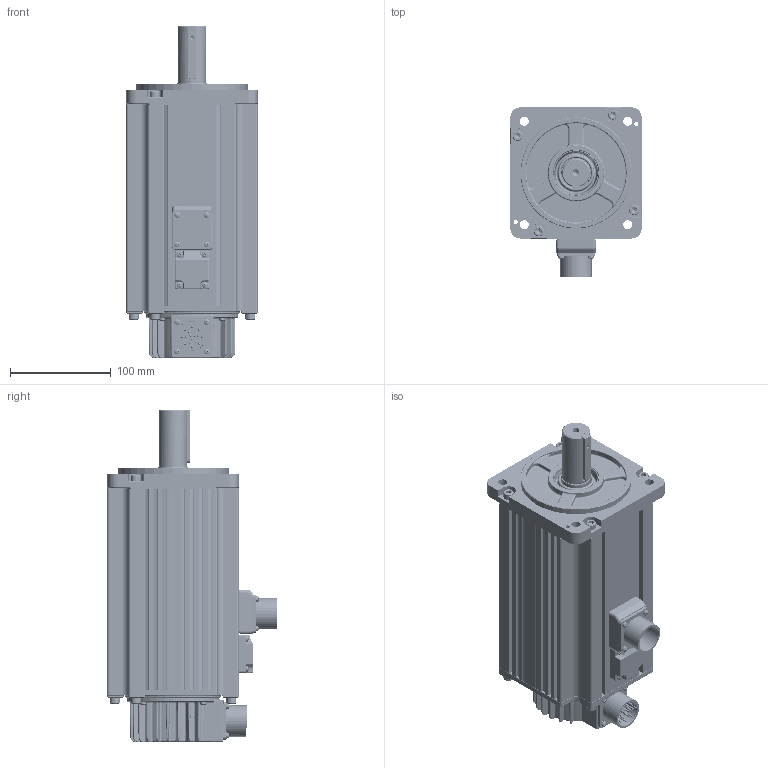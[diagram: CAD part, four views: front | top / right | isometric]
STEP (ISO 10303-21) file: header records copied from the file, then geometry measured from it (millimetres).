
FILE_DESCRIPTION((''),'2;1');
FILE_NAME('30C000_ASM','2019-11-15T09:42:48',('z17474'),(''),'CREO PARAMETRIC BY PTC INC, 2017260','CREO PARAMETRIC BY PTC INC, 2017260','');
FILE_SCHEMA(('CONFIG_CONTROL_DESIGN'));
Products named in the file (35): _____-1_AF0; ___AF0_ASM; 15050041-LJ; 31100148-LJ; 31100134-____; _____AF0_ASM; __AF0; _____1_AF0_ASM; 31090121_B01_ISMH3-85B15CD-U131_AF0; 31090131-LJ_AF0; 31100089-LJ; 31190209___-A_D72-GB89_3-86_AF0; ____1; __10_AF0; __1_AF0; 31150038-LJ-1_AF0_ASM; 31160032-ZP-1_AF0_ASM; 31090149-ZP_AF0_ASM; 15050037-LJ; JIAN; 0620_AF0; 0620_AF1; 0620_AF2; 0620_AF3; 0620_AF4; 0620_AF5; 0620_AF6; 0620_AF7; 0312-1_AF0; 0312-1_AF1; 0312-1_AF2; 0312-1_AF3; 22010052_2; 22010052_1; 30C000_ASM
Assembly tree (52 placements, depth 5):
  30C000_ASM
    _____AF0_ASM
      ___AF0_ASM
        _____-1_AF0
      15050041-LJ
      31100148-LJ
      31100134-____
    _____1_AF0_ASM
      __AF0
    31090121_B01_ISMH3-85B15CD-U131_AF0
    31090131-LJ_AF0
    31100089-LJ
    31190209___-A_D72-GB89_3-86_AF0
    ____1
    31090149-ZP_AF0_ASM
      31160032-ZP-1_AF0_ASM
        31150038-LJ-1_AF0_ASM
          __10_AF0
          __1_AF0
    15050037-LJ
    JIAN
    0620_AF0
    0620_AF1
    0620_AF2
    0620_AF3
    0620_AF4
    0620_AF5
    0620_AF6
    0620_AF7
    0312-1_AF0
    0312-1_AF1
    0312-1_AF2
    0312-1_AF3
    22010052_2  x12
    22010052_1  x8
Bounding box: 130 x 167.5 x 329 mm (x, y, z)
Volume: 1019046.6 mm3; surface area: 409387.6 mm2
Topology: 45 solids, 48 shells, 5113 faces, 11520 edges, 6479 vertices
Faces by surface type: cone 1899, cylinder 1854, plane 743, torus 304, bspline 205, sphere 108
Entity records: 95936 total; most frequent: CARTESIAN_POINT 38879, DIRECTION 12426, ORIENTED_EDGE 11566, EDGE_CURVE 5789, AXIS2_PLACEMENT_3D 5004, VERTEX_POINT 3530, CIRCLE 2712, EDGE_LOOP 2613
